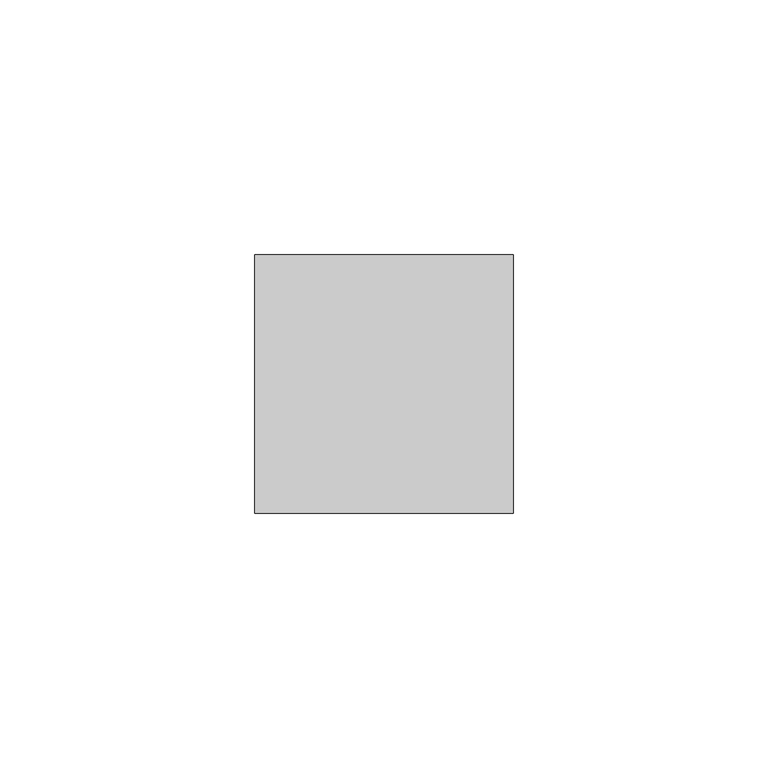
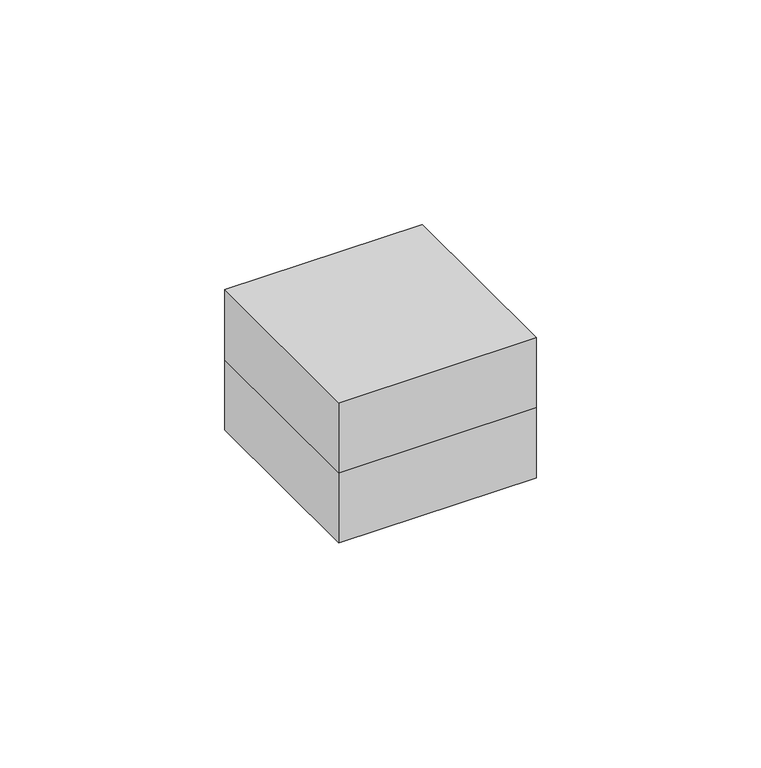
"""IFC4 building model written with IfcOpenShell, lengths in millimetres: proxy geometry, Spinneybeck_ARO Plank 7 : C - 2” x 2” x 3/4”."""

from ifc_helpers import new_model, si_unit, frame, origin, origin_with_axes, place, context, project, spatial, polyline, outline, extrude, source, transform, mapped, element, save


def specialty_equipment_1ede2179(model_context):
    return source(origin(), model_context, "Body", "SweptSolid", [
        extrude(outline(polyline([(25.4, 25.4), (25.4, -25.4), (-25.4, -25.4), (-25.4, 25.4), (25.4, 25.4)])), frame((0.0, 0.0, 19.05), z_axis=(0.0, 0.0, 1.0), x_axis=(1.0, 0.0, 0.0)), (0.0, 0.0, 1.0), 19.05),
        extrude(outline(polyline([(-25.4, -25.4), (-25.4, 25.4), (25.4, 25.4), (25.4, -25.4), (-25.4, -25.4)])), origin_with_axes(), (0.0, 0.0, 1.0), 19.05),
    ])


if __name__ == "__main__":
    model = new_model("IFC4")
    model_context = context("Model", 3, world=origin())
    ifc_project = project(units=[si_unit("LENGTHUNIT", "METRE", prefix="MILLI")], contexts=[model_context])
    site = spatial("IfcSite", under=ifc_project)
    building = spatial("IfcBuilding", under=site)
    placement = place(None, origin())
    specialty_equipment_shape = specialty_equipment_1ede2179(model_context)
    element("IfcBuildingElementProxy", 1, Name="Spinneybeck_ARO Plank 7 : C - 2” x 2” x 3/4”", ObjectType="Spinneybeck_ARO Plank 7 : C - 2” x 2” x 3/4”", at=placement, inside=building, context=model_context, shape_type="MappedRepresentation", body=[
        mapped(specialty_equipment_shape, transform((0.0, 0.0, 0.0), x_axis=(1.0, 0.0, 0.0), y_axis=(0.0, 1.0, 0.0), z_axis=(0.0, 0.0, 1.0))),
    ])
    save(model, "model.ifc")
